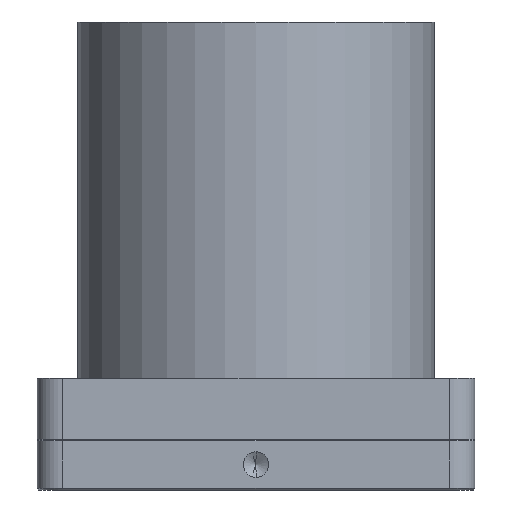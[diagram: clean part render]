
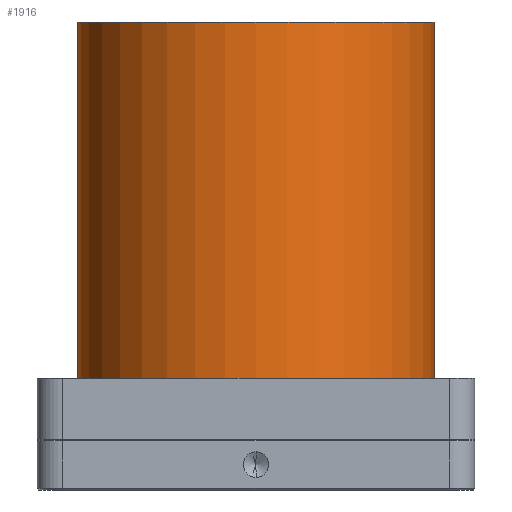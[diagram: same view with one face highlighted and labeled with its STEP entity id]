
A CAD part, front view. The second image highlights one B-rep face of the part: STEP entity #1916.
In plain terms, the highlighted cylindrical face has radius 35 mm (diameter 70 mm), a partial arc.
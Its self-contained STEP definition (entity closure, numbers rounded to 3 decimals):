
#82 = CYLINDRICAL_SURFACE ( 'NONE', #1092, 35. ) ;
#491 = ORIENTED_EDGE ( 'NONE', *, *, #2111, .T. ) ;
#736 = CARTESIAN_POINT ( 'NONE',  ( 0., 82., -35. ) ) ;
#875 = EDGE_CURVE ( 'NONE', #1192, #2850, #3954, .T. ) ;
#950 = ORIENTED_EDGE ( 'NONE', *, *, #875, .F. ) ;
#1092 = AXIS2_PLACEMENT_3D ( 'NONE', #2225, #1536, #1113 ) ;
#1113 = DIRECTION ( 'NONE',  ( 0., 0., -1. ) ) ;
#1121 = DIRECTION ( 'NONE',  ( 0., 1., 0. ) ) ;
#1126 = CARTESIAN_POINT ( 'NONE',  ( 0., 12., -35. ) ) ;
#1192 = VERTEX_POINT ( 'NONE', #3432 ) ;
#1478 = DIRECTION ( 'NONE',  ( 0., 0., 1. ) ) ;
#1536 = DIRECTION ( 'NONE',  ( 0., -1., 0. ) ) ;
#1702 = VECTOR ( 'NONE', #2152, 1000. ) ;
#1703 = CARTESIAN_POINT ( 'NONE',  ( 0., 12., 0. ) ) ;
#1706 = EDGE_CURVE ( 'NONE', #2850, #2313, #2089, .T. ) ;
#1771 = CIRCLE ( 'NONE', #3371, 35. ) ;
#1916 = ADVANCED_FACE ( 'NONE', ( #2937 ), #82, .T. ) ;
#1953 = VERTEX_POINT ( 'NONE', #2987 ) ;
#2062 = LINE ( 'NONE', #2504, #1702 ) ;
#2089 = LINE ( 'NONE', #736, #2846 ) ;
#2111 = EDGE_CURVE ( 'NONE', #1192, #1953, #2062, .T. ) ;
#2152 = DIRECTION ( 'NONE',  ( 0., -1., 0. ) ) ;
#2186 = EDGE_CURVE ( 'NONE', #1953, #2313, #1771, .T. ) ;
#2225 = CARTESIAN_POINT ( 'NONE',  ( 0., 82., 0. ) ) ;
#2313 = VERTEX_POINT ( 'NONE', #1126 ) ;
#2489 = ORIENTED_EDGE ( 'NONE', *, *, #2186, .T. ) ;
#2504 = CARTESIAN_POINT ( 'NONE',  ( 0., 82., 35. ) ) ;
#2586 = ORIENTED_EDGE ( 'NONE', *, *, #1706, .F. ) ;
#2846 = VECTOR ( 'NONE', #2847, 1000. ) ;
#2847 = DIRECTION ( 'NONE',  ( 0., -1., 0. ) ) ;
#2850 = VERTEX_POINT ( 'NONE', #4075 ) ;
#2864 = DIRECTION ( 'NONE',  ( 0., 0., 1. ) ) ;
#2937 = FACE_OUTER_BOUND ( 'NONE', #3127, .T. ) ;
#2987 = CARTESIAN_POINT ( 'NONE',  ( 0., 12., 35. ) ) ;
#3127 = EDGE_LOOP ( 'NONE', ( #950, #491, #2489, #2586 ) ) ;
#3156 = DIRECTION ( 'NONE',  ( 0., 1., 0. ) ) ;
#3371 = AXIS2_PLACEMENT_3D ( 'NONE', #1703, #3156, #2864 ) ;
#3432 = CARTESIAN_POINT ( 'NONE',  ( 0., 82., 35. ) ) ;
#3573 = AXIS2_PLACEMENT_3D ( 'NONE', #3643, #1121, #1478 ) ;
#3643 = CARTESIAN_POINT ( 'NONE',  ( 0., 82., 0. ) ) ;
#3954 = CIRCLE ( 'NONE', #3573, 35. ) ;
#4075 = CARTESIAN_POINT ( 'NONE',  ( 0., 82., -35. ) ) ;
